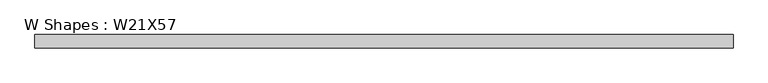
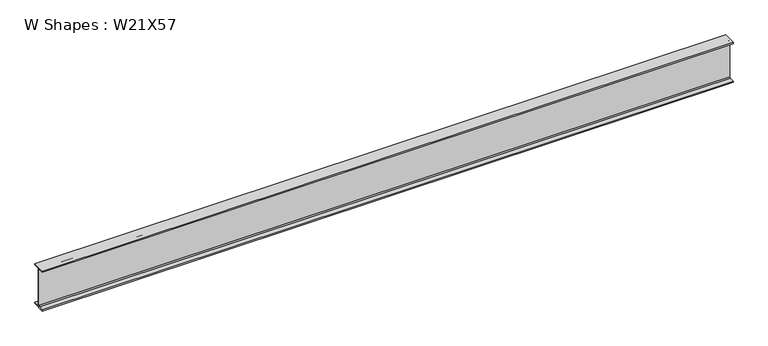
"""IFC4 building model written with IfcOpenShell, lengths in millimetres: beam geometry, W Shapes : W21X57."""

from ifc_helpers import new_model, si_unit, point, frame, frame_2d, origin, place, context, project, spatial, polyline, circle_curve, trimmed, segment, composite_curve, outline, extrude, source, transform, mapped, element, save


def w_shapes_w21x57_31511be1(model_context):
    return source(origin(), model_context, "Body", "SweptSolid", [
        extrude(outline(composite_curve([segment(polyline([(83.312, -251.46), (83.312, -267.97), (-83.312, -267.97), (-83.312, -251.46), (-17.907, -251.46)]), True, "CONTINUOUS"), segment(trimmed(circle_curve(frame_2d((-17.907, -238.76)), 12.7), [point((-17.907, -251.46))], [point((-5.207, -238.76))], True, "CARTESIAN"), True, "CONTINUOUS"), segment(polyline([(-5.207, -238.76), (-5.207, 238.76)]), True, "CONTINUOUS"), segment(trimmed(circle_curve(frame_2d((-17.907, 238.76)), 12.7), [point((-5.207, 238.76))], [point((-17.907, 251.46))], True, "CARTESIAN"), True, "CONTINUOUS"), segment(polyline([(-17.907, 251.46), (-83.312, 251.46), (-83.312, 267.97), (83.312, 267.97), (83.312, 251.46), (17.907, 251.46)]), True, "CONTINUOUS"), segment(trimmed(circle_curve(frame_2d((17.907, 238.76)), 12.7), [point((17.907, 251.46))], [point((5.207, 238.76))], True, "CARTESIAN"), True, "CONTINUOUS"), segment(polyline([(5.207, 238.76), (5.207, -238.76)]), True, "CONTINUOUS"), segment(trimmed(circle_curve(frame_2d((17.907, -238.76)), 12.7), [point((5.207, -238.76))], [point((17.907, -251.46))], True, "CARTESIAN"), True, "CONTINUOUS"), segment(polyline([(17.907, -251.46), (83.312, -251.46)]), True, "CONTINUOUS")], self_intersect=False)), frame((-4341.488, 0.0, 0.0), z_axis=(1.0, 0.0, 0.0), x_axis=(0.0, 1.0, 0.0)), (0.0, 0.0, 1.0), 8778.988),
    ])


if __name__ == "__main__":
    model = new_model("IFC4")
    model_context = context("Model", 3, world=origin())
    ifc_project = project(units=[si_unit("LENGTHUNIT", "METRE", prefix="MILLI")], contexts=[model_context])
    site = spatial("IfcSite", under=ifc_project)
    building = spatial("IfcBuilding", under=site)
    placement = place(None, origin())
    w_shapes_w21x57_shape = w_shapes_w21x57_31511be1(model_context)
    element("IfcBeam", 1, ObjectType="W Shapes : W21X57", at=placement, inside=building, context=model_context, shape_type="MappedRepresentation", body=[
        mapped(w_shapes_w21x57_shape, transform((0.0, 0.0, 0.0), x_axis=(1.0, 0.0, 0.0), y_axis=(0.0, 1.0, 0.0), z_axis=(0.0, 0.0, 1.0))),
    ])
    save(model, "model.ifc")
